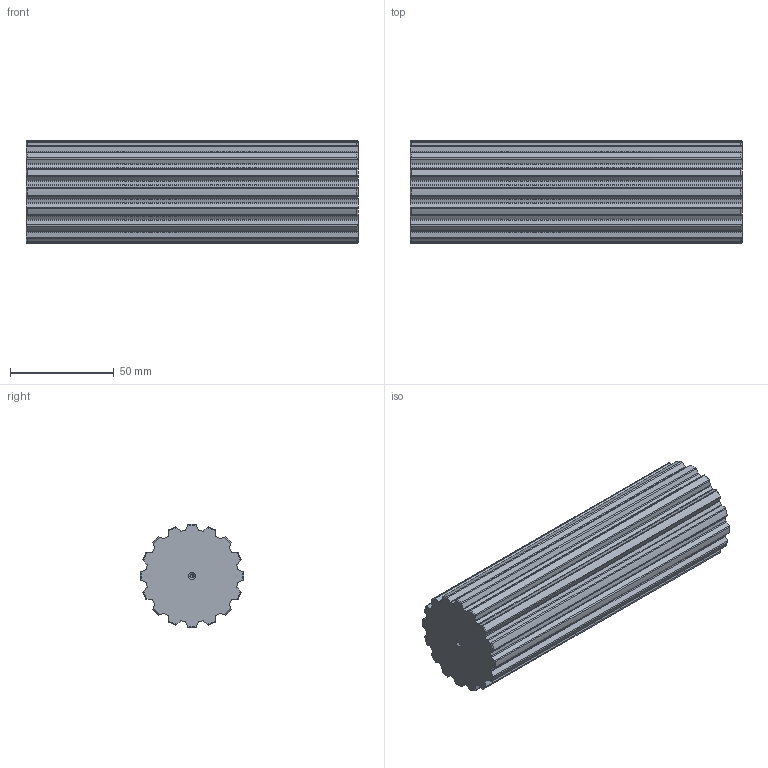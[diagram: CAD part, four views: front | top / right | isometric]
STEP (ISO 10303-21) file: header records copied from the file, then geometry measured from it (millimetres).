
FILE_DESCRIPTION(('STEP AP214'),'1');
FILE_NAME('bart_16.stp','2018-03-02T14:30:44',('TraceParts'),('TraceParts S.A.'),'Spatial InterOp 3D',' ',' ');
FILE_SCHEMA(('automotive_design'));
Length unit declared in the file: millimetre
Products named in the file (1): bart_16
Bounding box: 160 x 49.93 x 49.92 mm (x, y, z)
Volume: 284366.1 mm3; surface area: 34591.2 mm2
Topology: 1 solids, 1 shells, 178 faces, 520 edges, 342 vertices
Faces by surface type: cylinder 100, cone 44, plane 34
Entity records: 6183 total; most frequent: CARTESIAN_POINT 1613, ORIENTED_EDGE 1032, DIRECTION 926, EDGE_CURVE 516, AXIS2_PLACEMENT_3D 359, VERTEX_POINT 342, LINE 208, VECTOR 208
